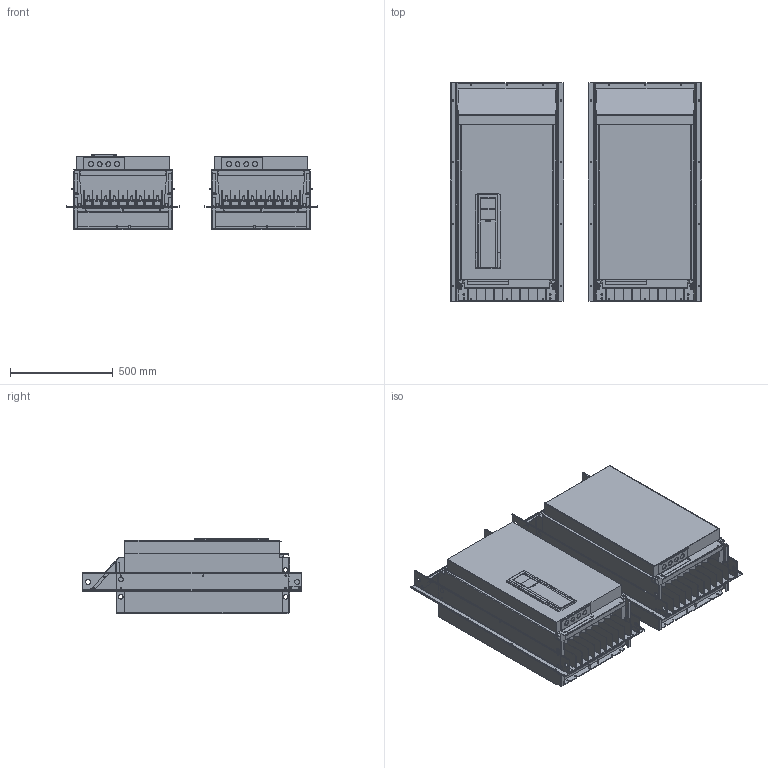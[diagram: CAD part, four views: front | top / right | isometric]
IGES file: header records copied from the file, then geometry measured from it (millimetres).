
Global section: file name: X:\PE\DKPE\Marketing\Customer Drawings\00029\Drafts\IGS\DPD02219.igs; native system: NX V1872; preprocessor: SIEMENS PLM Software NX 1892; date: 20211105.172328; units: millimetre
Bounding box: 1220 x 1060 x 365.1 mm (x, y, z)
Surface area: 7095433.2 mm2 (no closed solid volume)
Topology: 0 solids, 0 shells, 3145 faces, 19946 edges, 19813 vertices
Faces by surface type: bspline 3145
